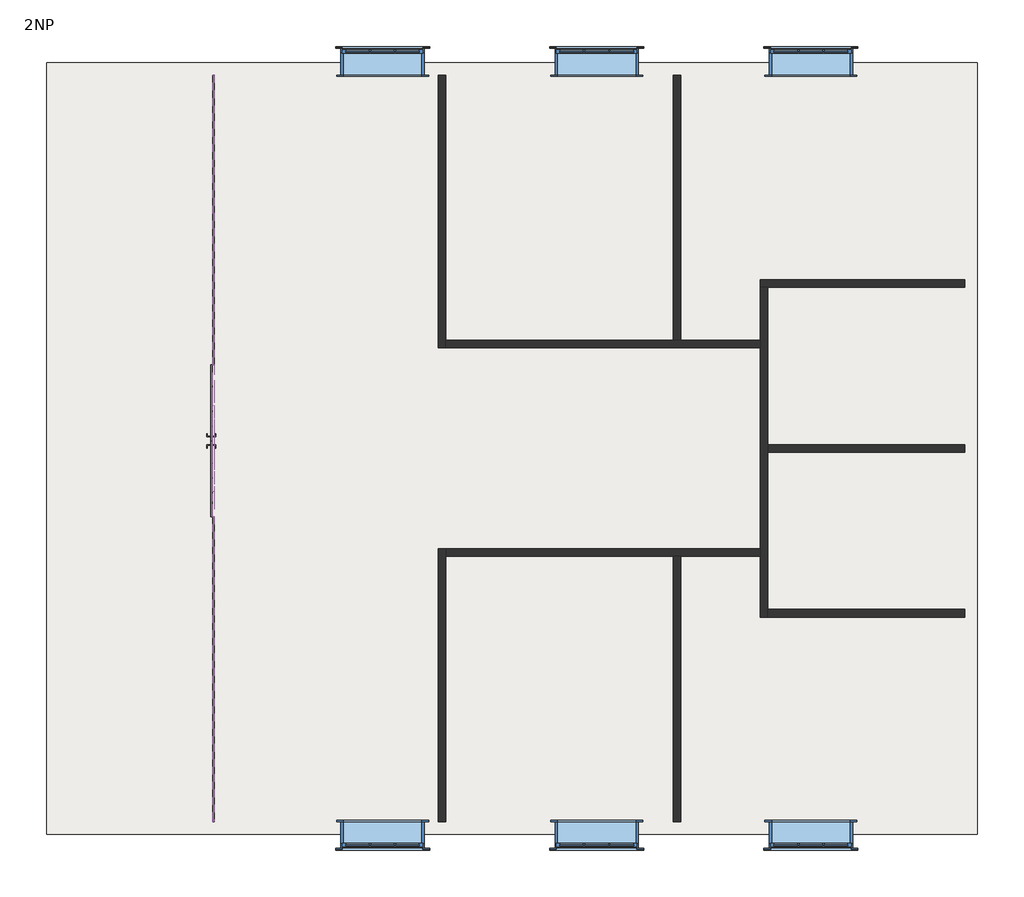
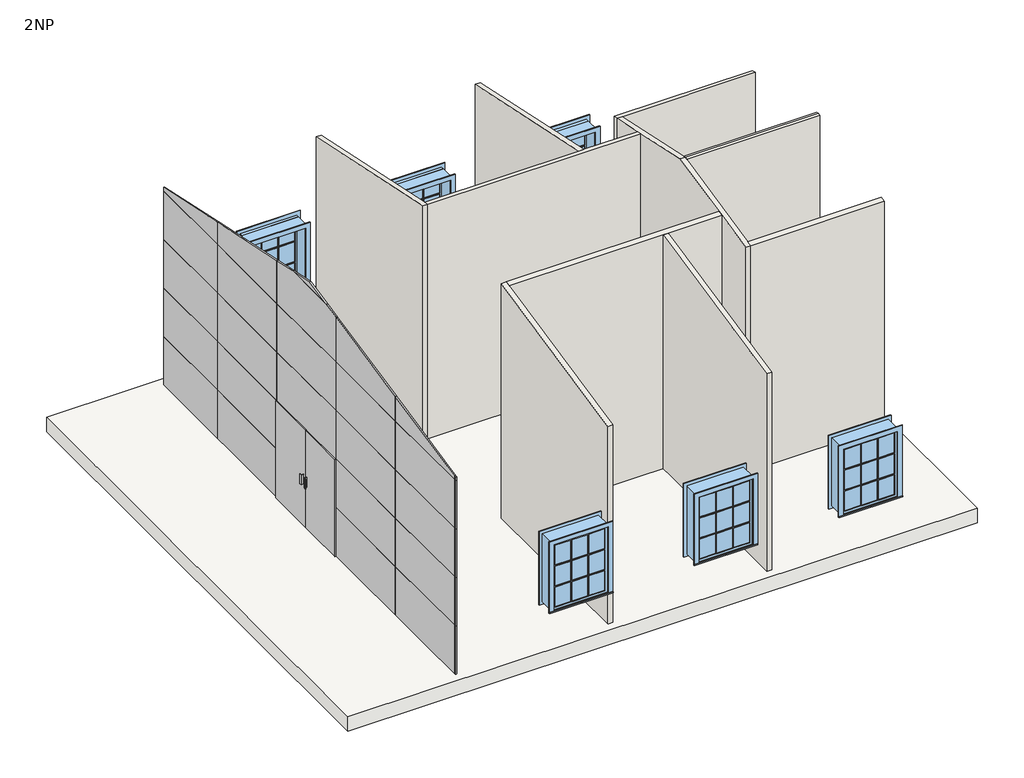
# One storey: 30 plates, 10 walls, 6 windows, 1 slab.
"""IFC4 building model written with IfcOpenShell, lengths in millimetres."""

from ifc_helpers import new_model, si_unit, frame, origin, place, context, project, spatial, polyline, outline, extrude, faceted_brep, transform, mapped, element, save
from components import m_curtain_wall_dbl_glass_m_curtain_wall_dbl_glass_8e53cbdd, system_panel_glazed_3bc3f474, system_panel_glazed_80d48844, system_panel_glazed_b3ad26ea, system_panel_glazed_7808aa91, system_panel_glazed_57ddb692, system_panel_glazed_979c8b4f, system_panel_glazed_3117e7c3, system_panel_glazed_a84dee68, system_panel_glazed_fcf5a203, system_panel_glazed_117d8d09, m_casement_3x3_with_trim_1100_x_1400mm_61373874

model = new_model("IFC4")

# Units and contexts
model_context = context("Model", 3, world=origin())
ifc_project = project(units=[si_unit("LENGTHUNIT", "METRE", prefix="MILLI")], contexts=[model_context])

# Site, building, storey
site = spatial("IfcSite", under=ifc_project)
building = spatial("IfcBuilding", under=site)
storey = spatial("IfcBuildingStorey", under=building, Name="2NP", Elevation=4000.0)

# Plates
placement = place(None, origin())
m_curtain_wall_dbl_glass_m_curtain_wall_dbl_glass_shape = m_curtain_wall_dbl_glass_m_curtain_wall_dbl_glass_8e53cbdd(model_context)
element("IfcPlate", 1, ObjectType="M_Curtain Wall Dbl Glass : M_Curtain Wall Dbl Glass", at=placement, inside=storey, context=model_context, shape_type="MappedRepresentation", body=[
    mapped(m_curtain_wall_dbl_glass_m_curtain_wall_dbl_glass_shape, transform((-2444.6034563, 216.1355404, 4000.0), x_axis=(0.0, -1.0, 0.0), y_axis=(1.0, 0.0, 0.0), z_axis=(0.0, 0.0, 1.0))),
])
system_panel_glazed_shape = system_panel_glazed_3bc3f474(model_context)
element("IfcPlate", 2, ObjectType="System Panel : Glazed", at=placement, inside=storey, context=model_context, shape_type="MappedRepresentation", body=[
    mapped(system_panel_glazed_shape, transform((-2444.6034563, 4128.6355404, 4000.0), x_axis=(0.0, -1.0, 0.0), y_axis=(1.0, 0.0, 0.0), z_axis=(0.0, 0.0, 1.0))),
])
element("IfcPlate", 3, ObjectType="System Panel : Glazed", at=placement, inside=storey, context=model_context, shape_type="MappedRepresentation", body=[
    mapped(system_panel_glazed_shape, transform((-2444.6034563, 4128.6355404, 5000.0), x_axis=(0.0, -1.0, 0.0), y_axis=(1.0, 0.0, 0.0), z_axis=(0.0, 0.0, 1.0))),
])
element("IfcPlate", 4, ObjectType="System Panel : Glazed", at=placement, inside=storey, context=model_context, shape_type="MappedRepresentation", body=[
    mapped(system_panel_glazed_shape, transform((-2444.6034563, 4128.6355404, 6000.0), x_axis=(0.0, -1.0, 0.0), y_axis=(1.0, 0.0, 0.0), z_axis=(0.0, 0.0, 1.0))),
])
element("IfcPlate", 5, ObjectType="System Panel : Glazed", at=placement, inside=storey, context=model_context, shape_type="MappedRepresentation", body=[
    mapped(system_panel_glazed_shape, transform((-2444.6034563, 4128.6355404, 7000.0), x_axis=(0.0, -1.0, 0.0), y_axis=(1.0, 0.0, 0.0), z_axis=(0.0, 0.0, 1.0))),
])
system_panel_glazed_2_shape = system_panel_glazed_80d48844(model_context)
element("IfcPlate", 6, ObjectType="System Panel : Glazed", at=placement, inside=storey, context=model_context, shape_type="MappedRepresentation", body=[
    mapped(system_panel_glazed_2_shape, transform((-2444.6034563, 2216.1355404, 4000.0), x_axis=(0.0, -1.0, 0.0), y_axis=(1.0, 0.0, 0.0), z_axis=(0.0, 0.0, 1.0))),
])
element("IfcPlate", 7, ObjectType="System Panel : Glazed", at=placement, inside=storey, context=model_context, shape_type="MappedRepresentation", body=[
    mapped(system_panel_glazed_2_shape, transform((-2444.6034563, -1783.8644596, 4000.0), x_axis=(0.0, -1.0, 0.0), y_axis=(1.0, 0.0, 0.0), z_axis=(0.0, 0.0, 1.0))),
])
element("IfcPlate", 8, ObjectType="System Panel : Glazed", at=placement, inside=storey, context=model_context, shape_type="MappedRepresentation", body=[
    mapped(system_panel_glazed_2_shape, transform((-2444.6034563, -3783.8644596, 4000.0), x_axis=(0.0, -1.0, 0.0), y_axis=(1.0, 0.0, 0.0), z_axis=(0.0, 0.0, 1.0))),
])
element("IfcPlate", 9, ObjectType="System Panel : Glazed", at=placement, inside=storey, context=model_context, shape_type="MappedRepresentation", body=[
    mapped(system_panel_glazed_2_shape, transform((-2444.6034563, 2216.1355404, 5000.0), x_axis=(0.0, -1.0, 0.0), y_axis=(1.0, 0.0, 0.0), z_axis=(0.0, 0.0, 1.0))),
])
element("IfcPlate", 10, ObjectType="System Panel : Glazed", at=placement, inside=storey, context=model_context, shape_type="MappedRepresentation", body=[
    mapped(system_panel_glazed_2_shape, transform((-2444.6034563, -1783.8644596, 5000.0), x_axis=(0.0, -1.0, 0.0), y_axis=(1.0, 0.0, 0.0), z_axis=(0.0, 0.0, 1.0))),
])
element("IfcPlate", 11, ObjectType="System Panel : Glazed", at=placement, inside=storey, context=model_context, shape_type="MappedRepresentation", body=[
    mapped(system_panel_glazed_2_shape, transform((-2444.6034563, -3783.8644596, 5000.0), x_axis=(0.0, -1.0, 0.0), y_axis=(1.0, 0.0, 0.0), z_axis=(0.0, 0.0, 1.0))),
])
element("IfcPlate", 12, ObjectType="System Panel : Glazed", at=placement, inside=storey, context=model_context, shape_type="MappedRepresentation", body=[
    mapped(system_panel_glazed_2_shape, transform((-2444.6034563, 2216.1355404, 6000.0), x_axis=(0.0, -1.0, 0.0), y_axis=(1.0, 0.0, 0.0), z_axis=(0.0, 0.0, 1.0))),
])
element("IfcPlate", 13, ObjectType="System Panel : Glazed", at=placement, inside=storey, context=model_context, shape_type="MappedRepresentation", body=[
    mapped(system_panel_glazed_2_shape, transform((-2444.6034563, 216.1355404, 6000.0), x_axis=(0.0, -1.0, 0.0), y_axis=(1.0, 0.0, 0.0), z_axis=(0.0, 0.0, 1.0))),
])
element("IfcPlate", 14, ObjectType="System Panel : Glazed", at=placement, inside=storey, context=model_context, shape_type="MappedRepresentation", body=[
    mapped(system_panel_glazed_2_shape, transform((-2444.6034563, -1783.8644596, 6000.0), x_axis=(0.0, -1.0, 0.0), y_axis=(1.0, 0.0, 0.0), z_axis=(0.0, 0.0, 1.0))),
])
element("IfcPlate", 15, ObjectType="System Panel : Glazed", at=placement, inside=storey, context=model_context, shape_type="MappedRepresentation", body=[
    mapped(system_panel_glazed_2_shape, transform((-2444.6034563, -3783.8644596, 6000.0), x_axis=(0.0, -1.0, 0.0), y_axis=(1.0, 0.0, 0.0), z_axis=(0.0, 0.0, 1.0))),
])
element("IfcPlate", 16, ObjectType="System Panel : Glazed", at=placement, inside=storey, context=model_context, shape_type="MappedRepresentation", body=[
    mapped(system_panel_glazed_2_shape, transform((-2444.6034563, 2216.1355404, 7000.0), x_axis=(0.0, -1.0, 0.0), y_axis=(1.0, 0.0, 0.0), z_axis=(0.0, 0.0, 1.0))),
])
element("IfcPlate", 17, ObjectType="System Panel : Glazed", at=placement, inside=storey, context=model_context, shape_type="MappedRepresentation", body=[
    mapped(system_panel_glazed_2_shape, transform((-2444.6034563, 216.1355404, 7000.0), x_axis=(0.0, -1.0, 0.0), y_axis=(1.0, 0.0, 0.0), z_axis=(0.0, 0.0, 1.0))),
])
element("IfcPlate", 18, ObjectType="System Panel : Glazed", at=placement, inside=storey, context=model_context, shape_type="MappedRepresentation", body=[
    mapped(system_panel_glazed_2_shape, transform((-2444.6034563, -1783.8644596, 7000.0), x_axis=(0.0, -1.0, 0.0), y_axis=(1.0, 0.0, 0.0), z_axis=(0.0, 0.0, 1.0))),
])
element("IfcPlate", 19, ObjectType="System Panel : Glazed", at=placement, inside=storey, context=model_context, shape_type="MappedRepresentation", body=[
    mapped(system_panel_glazed_2_shape, transform((-2444.6034563, -3783.8644596, 7000.0), x_axis=(0.0, -1.0, 0.0), y_axis=(1.0, 0.0, 0.0), z_axis=(0.0, 0.0, 1.0))),
])
system_panel_glazed_3_shape = system_panel_glazed_b3ad26ea(model_context)
element("IfcPlate", 20, ObjectType="System Panel : Glazed", at=placement, inside=storey, context=model_context, shape_type="MappedRepresentation", body=[
    mapped(system_panel_glazed_3_shape, transform((-2444.6034563, -4796.3644596, 4000.0), x_axis=(0.0, -1.0, 0.0), y_axis=(1.0, 0.0, 0.0), z_axis=(0.0, 0.0, 1.0))),
])
element("IfcPlate", 21, ObjectType="System Panel : Glazed", at=placement, inside=storey, context=model_context, shape_type="MappedRepresentation", body=[
    mapped(system_panel_glazed_3_shape, transform((-2444.6034563, -4796.3644596, 5000.0), x_axis=(0.0, -1.0, 0.0), y_axis=(1.0, 0.0, 0.0), z_axis=(0.0, 0.0, 1.0))),
])
element("IfcPlate", 22, ObjectType="System Panel : Glazed", at=placement, inside=storey, context=model_context, shape_type="MappedRepresentation", body=[
    mapped(system_panel_glazed_3_shape, transform((-2444.6034563, -4796.3644596, 6000.0), x_axis=(0.0, -1.0, 0.0), y_axis=(1.0, 0.0, 0.0), z_axis=(0.0, 0.0, 1.0))),
])
element("IfcPlate", 23, ObjectType="System Panel : Glazed", at=placement, inside=storey, context=model_context, shape_type="MappedRepresentation", body=[
    mapped(system_panel_glazed_3_shape, transform((-2444.6034563, -4796.3644596, 7000.0), x_axis=(0.0, -1.0, 0.0), y_axis=(1.0, 0.0, 0.0), z_axis=(0.0, 0.0, 1.0))),
])
system_panel_glazed_4_shape = system_panel_glazed_7808aa91(model_context)
element("IfcPlate", 24, ObjectType="System Panel : Glazed", at=placement, inside=storey, context=model_context, shape_type="MappedRepresentation", body=[
    mapped(system_panel_glazed_4_shape, transform((-2444.6034563, 4128.6355404, 8000.0), x_axis=(0.0, -1.0, 0.0), y_axis=(1.0, 0.0, 0.0), z_axis=(0.0, 0.0, 1.0))),
])
system_panel_glazed_5_shape = system_panel_glazed_57ddb692(model_context)
element("IfcPlate", 25, ObjectType="System Panel : Glazed", at=placement, inside=storey, context=model_context, shape_type="MappedRepresentation", body=[
    mapped(system_panel_glazed_5_shape, transform((-2444.6034563, 2216.1355404, 8000.0), x_axis=(0.0, -1.0, 0.0), y_axis=(1.0, 0.0, 0.0), z_axis=(0.0, 0.0, 1.0))),
])
system_panel_glazed_6_shape = system_panel_glazed_979c8b4f(model_context)
element("IfcPlate", 26, ObjectType="System Panel : Glazed", at=placement, inside=storey, context=model_context, shape_type="MappedRepresentation", body=[
    mapped(system_panel_glazed_6_shape, transform((-2444.6034563, 216.1355404, 8000.0), x_axis=(0.0, -1.0, 0.0), y_axis=(1.0, 0.0, 0.0), z_axis=(0.0, 0.0, 1.0))),
])
system_panel_glazed_7_shape = system_panel_glazed_3117e7c3(model_context)
element("IfcPlate", 27, ObjectType="System Panel : Glazed", at=placement, inside=storey, context=model_context, shape_type="MappedRepresentation", body=[
    mapped(system_panel_glazed_7_shape, transform((-2444.6034563, -1783.8644596, 8000.0), x_axis=(0.0, -1.0, 0.0), y_axis=(1.0, 0.0, 0.0), z_axis=(0.0, 0.0, 1.0))),
])
system_panel_glazed_8_shape = system_panel_glazed_a84dee68(model_context)
element("IfcPlate", 28, ObjectType="System Panel : Glazed", at=placement, inside=storey, context=model_context, shape_type="MappedRepresentation", body=[
    mapped(system_panel_glazed_8_shape, transform((-2444.6034563, -3783.8644596, 8000.0), x_axis=(0.0, -1.0, 0.0), y_axis=(1.0, 0.0, 0.0), z_axis=(0.0, 0.0, 1.0))),
])
system_panel_glazed_9_shape = system_panel_glazed_fcf5a203(model_context)
element("IfcPlate", 29, ObjectType="System Panel : Glazed", at=placement, inside=storey, context=model_context, shape_type="MappedRepresentation", body=[
    mapped(system_panel_glazed_9_shape, transform((-2444.6034563, -4796.3644596, 8000.0), x_axis=(0.0, -1.0, 0.0), y_axis=(1.0, 0.0, 0.0), z_axis=(0.0, 0.0, 1.0))),
])
system_panel_glazed_10_shape = system_panel_glazed_117d8d09(model_context)
element("IfcPlate", 30, ObjectType="System Panel : Glazed", at=placement, inside=storey, context=model_context, shape_type="MappedRepresentation", body=[
    mapped(system_panel_glazed_10_shape, transform((-2444.6034563, 116.1355404, 9000.0), x_axis=(0.0, -1.0, 0.0), y_axis=(1.0, 0.0, 0.0), z_axis=(0.0, 0.0, 1.0))),
])

# Slab
element("IfcSlab", 31, ObjectType="Generic 300mm", at=placement, inside=storey, context=model_context, shape_type="SweptSolid", body=[
    extrude(outline(polyline([(-4609.6034563, 5206.1355404), (7670.3965437, 5206.1355404), (7670.3965437, -4973.8644596), (-4609.6034563, -4973.8644596), (-4609.6034563, 5206.1355404)])), frame((0.0, 0.0, 3700.0), z_axis=(0.0, 0.0, 1.0), x_axis=(1.0, 0.0, 0.0)), (0.0, 0.0, 1.0), 300.0),
])

# Walls
element("IfcWall", 32, ObjectType="Generic - 100mm", at=placement, inside=storey, context=model_context, shape_type="Brep", body=[
    faceted_brep([(655.3965437, -4808.8644596, 4000.0), (655.3965437, -1308.8644596, 4000.0), (655.3965437, -1208.8644596, 4000.0), (655.3965437, -1208.8644596, 8839.5984186), (655.3965437, -1308.8644596, 8818.3427624), (655.3965437, -4808.8644596, 8074.3947966), (555.3965437, -4808.8644596, 4000.0), (555.3965437, -4808.8644596, 8074.3947966), (555.3965437, -1208.8644596, 8839.5984186), (555.3965437, -1208.8644596, 4000.0)], [[[0, 1, 2, 3, 4, 5]], [[6, 7, 8, 9]], [[2, 1, 0, 6, 9]], [[3, 2, 9, 8]], [[0, 5, 7, 6]], [[5, 4, 3, 8, 7]]]),
])
element("IfcWall", 33, ObjectType="Generic - 100mm", at=placement, inside=storey, context=model_context, shape_type="Brep", body=[
    faceted_brep([(655.3965437, 1441.1355404, 4000.0), (4805.3965437, 1441.1355404, 4000.0), (4805.3965437, 1441.1355404, 8839.5984186), (655.3965437, 1441.1355404, 8839.5984186), (655.3965437, 1541.1355404, 4000.0), (655.3965437, 1541.1355404, 8818.3427624), (3655.3965437, 1541.1355404, 8818.3427624), (3755.3965437, 1541.1355404, 8818.3427624), (4805.3965437, 1541.1355404, 8818.3427624), (4805.3965437, 1541.1355404, 4000.0), (3755.3965437, 1541.1355404, 4000.0), (3655.3965437, 1541.1355404, 4000.0)], [[[0, 1, 2, 3]], [[4, 5, 6, 7, 8, 9, 10, 11]], [[1, 0, 4, 11, 10, 9]], [[0, 3, 5, 4]], [[2, 1, 9, 8]], [[3, 2, 8, 7, 6, 5]]]),
])
element("IfcWall", 34, ObjectType="Generic - 100mm", at=placement, inside=storey, context=model_context, shape_type="Brep", body=[
    faceted_brep([(655.3965437, -1308.8644596, 4000.0), (3655.3965437, -1308.8644596, 4000.0), (3755.3965437, -1308.8644596, 4000.0), (4805.3965437, -1308.8644596, 4000.0), (4805.3965437, -1308.8644596, 8818.3427624), (3755.3965437, -1308.8644596, 8818.3427624), (3655.3965437, -1308.8644596, 8818.3427624), (655.3965437, -1308.8644596, 8818.3427624), (655.3965437, -1208.8644596, 4000.0), (655.3965437, -1208.8644596, 8839.5984186), (4805.3965437, -1208.8644596, 8839.5984186), (4805.3965437, -1208.8644596, 4000.0)], [[[0, 1, 2, 3, 4, 5, 6, 7]], [[8, 9, 10, 11]], [[3, 2, 1, 0, 8, 11]], [[0, 7, 9, 8]], [[4, 3, 11, 10]], [[7, 6, 5, 4, 10, 9]]]),
])
element("IfcWall", 35, ObjectType="Generic - 100mm", at=placement, inside=storey, context=model_context, shape_type="Brep", body=[
    faceted_brep([(7505.3965437, 2341.1355404, 4000.0), (4805.3965437, 2341.1355404, 4000.0), (4805.3965437, 2341.1355404, 8648.2975131), (7505.3965437, 2341.1355404, 8648.2975131), (7505.3965437, 2241.1355404, 4000.0), (7505.3965437, 2241.1355404, 8669.5531693), (4905.3965437, 2241.1355404, 8669.5531693), (4805.3965437, 2241.1355404, 8669.5531693), (4805.3965437, 2241.1355404, 4000.0), (4905.3965437, 2241.1355404, 4000.0)], [[[0, 1, 2, 3]], [[4, 5, 6, 7, 8, 9]], [[1, 0, 4, 9, 8]], [[2, 1, 8, 7]], [[0, 3, 5, 4]], [[3, 2, 7, 6, 5]]]),
])
element("IfcWall", 36, ObjectType="Generic - 100mm", at=placement, inside=storey, context=model_context, shape_type="Brep", body=[
    faceted_brep([(4805.3965437, 2241.1355404, 4000.0), (4805.3965437, 1541.1355404, 4000.0), (4805.3965437, 1441.1355404, 4000.0), (4805.3965437, -1208.8644596, 4000.0), (4805.3965437, -1308.8644596, 4000.0), (4805.3965437, -2108.8644596, 4000.0), (4805.3965437, -2108.8644596, 8648.2975131), (4805.3965437, -1308.8644596, 8818.3427624), (4805.3965437, -1208.8644596, 8839.5984186), (4805.3965437, 116.1355404, 9121.2358628), (4805.3965437, 1441.1355404, 8839.5984186), (4805.3965437, 1541.1355404, 8818.3427624), (4805.3965437, 2241.1355404, 8669.5531693), (4905.3965437, 2241.1355404, 4000.0), (4905.3965437, 2241.1355404, 8669.5531693), (4905.3965437, 166.1355404, 9110.6080347), (4905.3965437, 116.1355404, 9121.2358628), (4905.3965437, 66.1355404, 9110.6080347), (4905.3965437, -2008.8644596, 8669.5531693), (4905.3965437, -2108.8644596, 8648.2975131), (4905.3965437, -2108.8644596, 4000.0), (4905.3965437, -2008.8644596, 4000.0), (4905.3965437, 66.1355404, 4000.0), (4905.3965437, 166.1355404, 4000.0)], [[[0, 1, 2, 3, 4, 5, 6, 7, 8, 9, 10, 11, 12]], [[13, 14, 15, 16, 17, 18, 19, 20, 21, 22, 23]], [[5, 4, 3, 2, 1, 0, 13, 23, 22, 21, 20]], [[6, 5, 20, 19]], [[0, 12, 14, 13]], [[12, 11, 10, 9, 16, 15, 14]], [[9, 8, 7, 6, 19, 18, 17, 16]]]),
])
element("IfcWall", 37, ObjectType="Generic - 100mm", at=placement, inside=storey, context=model_context, shape_type="SweptSolid", body=[
    extrude(outline(polyline([(-2108.8644596, 4000.0), (-2108.8644596, 8648.2975131), (-2008.8644596, 8669.5531693), (-2008.8644596, 4000.0), (-2108.8644596, 4000.0)])), frame((4905.3965437, 0.0, 0.0), z_axis=(1.0, 0.0, 0.0), x_axis=(0.0, 1.0, 0.0)), (0.0, 0.0, 1.0), 2600.0),
])
element("IfcWall", 38, ObjectType="Generic - 100mm", at=placement, inside=storey, context=model_context, shape_type="SweptSolid", body=[
    extrude(outline(polyline([(-1308.8644596, 4000.0), (-4808.8644596, 4000.0), (-4808.8644596, 8074.3947966), (-1308.8644596, 8818.3427624), (-1308.8644596, 4000.0)])), frame((3655.3965437, 0.0, 0.0), z_axis=(1.0, 0.0, 0.0), x_axis=(0.0, 1.0, 0.0)), (0.0, 0.0, 1.0), 100.0),
])
element("IfcWall", 39, ObjectType="Generic - 100mm", at=placement, inside=storey, context=model_context, shape_type="SweptSolid", body=[
    extrude(outline(polyline([(1541.1355404, 4000.0), (1541.1355404, 8818.3427624), (5041.1355404, 8074.3947966), (5041.1355404, 4000.0), (1541.1355404, 4000.0)])), frame((3655.3965437, 0.0, 0.0), z_axis=(1.0, 0.0, 0.0), x_axis=(0.0, 1.0, 0.0)), (0.0, 0.0, 1.0), 100.0),
])
element("IfcWall", 40, ObjectType="Generic - 100mm", at=placement, inside=storey, context=model_context, shape_type="SweptSolid", body=[
    extrude(outline(polyline([(66.1355404, 4000.0), (66.1355404, 9110.6080347), (116.1355404, 9121.2358628), (166.1355404, 9110.6080347), (166.1355404, 4000.0), (66.1355404, 4000.0)])), frame((4905.3965437, 0.0, 0.0), z_axis=(1.0, 0.0, 0.0), x_axis=(0.0, 1.0, 0.0)), (0.0, 0.0, 1.0), 2600.0),
])
element("IfcWall", 41, ObjectType="Generic - 100mm", at=placement, inside=storey, context=model_context, shape_type="Brep", body=[
    faceted_brep([(655.3965437, 1441.1355404, 4000.0), (655.3965437, 1541.1355404, 4000.0), (655.3965437, 5041.1355404, 4000.0), (655.3965437, 5041.1355404, 8074.3947966), (655.3965437, 1541.1355404, 8818.3427624), (655.3965437, 1441.1355404, 8839.5984186), (555.3965437, 1441.1355404, 4000.0), (555.3965437, 1441.1355404, 8839.5984186), (555.3965437, 5041.1355404, 8074.3947966), (555.3965437, 5041.1355404, 4000.0)], [[[0, 1, 2, 3, 4, 5]], [[6, 7, 8, 9]], [[2, 1, 0, 6, 9]], [[0, 5, 7, 6]], [[3, 2, 9, 8]], [[5, 4, 3, 8, 7]]]),
])

# Windows
m_casement_3x3_with_trim_1100_x_1400mm_shape = m_casement_3x3_with_trim_1100_x_1400mm_61373874(model_context)
element("IfcWindow", 42, ObjectType="M_Casement 3x3 with Trim : 1100 x 1400mm", at=placement, inside=storey, context=model_context, shape_type="MappedRepresentation", body=[
    mapped(m_casement_3x3_with_trim_1100_x_1400mm_shape, transform((-177.1034563, -4983.8644596, 4000.0), x_axis=(-1.0, 0.0, 0.0), y_axis=(0.0, -1.0, 0.0), z_axis=(0.0, 0.0, 1.0))),
])
element("IfcWindow", 43, ObjectType="M_Casement 3x3 with Trim : 1100 x 1400mm", at=placement, inside=storey, context=model_context, shape_type="MappedRepresentation", body=[
    mapped(m_casement_3x3_with_trim_1100_x_1400mm_shape, transform((2647.8965437, -4983.8644596, 4000.0), x_axis=(-1.0, 0.0, 0.0), y_axis=(0.0, -1.0, 0.0), z_axis=(0.0, 0.0, 1.0))),
])
element("IfcWindow", 44, ObjectType="M_Casement 3x3 with Trim : 1100 x 1400mm", at=placement, inside=storey, context=model_context, shape_type="MappedRepresentation", body=[
    mapped(m_casement_3x3_with_trim_1100_x_1400mm_shape, transform((5472.8965437, -4983.8644596, 4000.0), x_axis=(-1.0, 0.0, 0.0), y_axis=(0.0, -1.0, 0.0), z_axis=(0.0, 0.0, 1.0))),
])
element("IfcWindow", 45, ObjectType="M_Casement 3x3 with Trim : 1100 x 1400mm", at=placement, inside=storey, context=model_context, shape_type="MappedRepresentation", body=[
    mapped(m_casement_3x3_with_trim_1100_x_1400mm_shape, transform((5472.8965437, 5216.1355404, 4000.0), x_axis=(1.0, 0.0, 0.0), y_axis=(0.0, 1.0, 0.0), z_axis=(0.0, 0.0, 1.0))),
])
element("IfcWindow", 46, ObjectType="M_Casement 3x3 with Trim : 1100 x 1400mm", at=placement, inside=storey, context=model_context, shape_type="MappedRepresentation", body=[
    mapped(m_casement_3x3_with_trim_1100_x_1400mm_shape, transform((2647.8965437, 5216.1355404, 4000.0), x_axis=(1.0, 0.0, 0.0), y_axis=(0.0, 1.0, 0.0), z_axis=(0.0, 0.0, 1.0))),
])
element("IfcWindow", 47, ObjectType="M_Casement 3x3 with Trim : 1100 x 1400mm", at=placement, inside=storey, context=model_context, shape_type="MappedRepresentation", body=[
    mapped(m_casement_3x3_with_trim_1100_x_1400mm_shape, transform((-177.1034563, 5216.1355404, 4000.0), x_axis=(1.0, 0.0, 0.0), y_axis=(0.0, 1.0, 0.0), z_axis=(0.0, 0.0, 1.0))),
])

save(model, "model.ifc")
